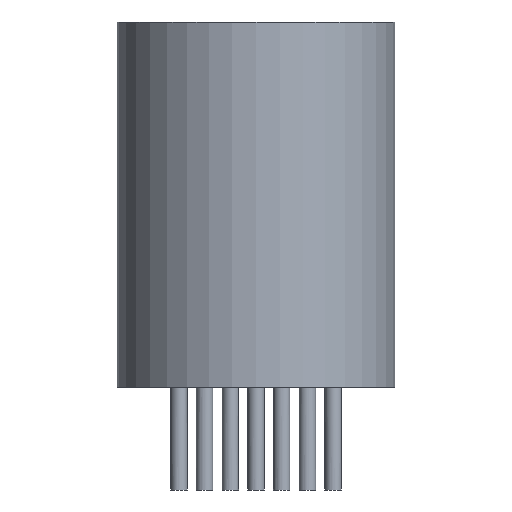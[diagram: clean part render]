
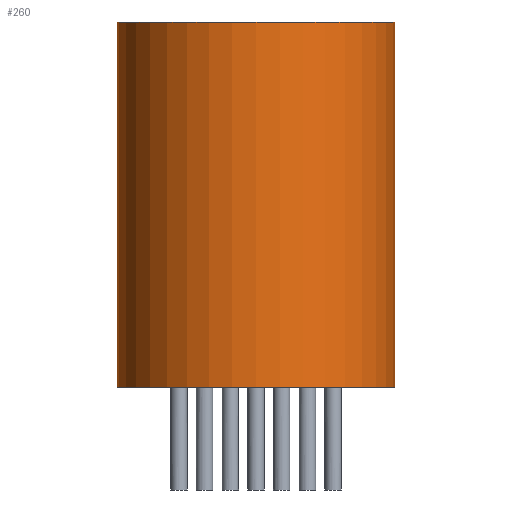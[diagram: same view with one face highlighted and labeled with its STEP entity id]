
A CAD part, front view. The second image highlights one B-rep face of the part: STEP entity #260.
In plain terms, the highlighted cylindrical face has radius 3.429 mm (diameter 6.858 mm), a partial arc.
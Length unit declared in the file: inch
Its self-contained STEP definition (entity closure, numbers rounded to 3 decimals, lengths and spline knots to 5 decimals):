
#212 = ORIENTED_EDGE ( 'NONE', *, *, #256, .F. ) ;
#218 = ORIENTED_EDGE ( 'NONE', *, *, #5225, .T. ) ;
#223 = EDGE_LOOP ( 'NONE', ( #265, #212, #218, #250 ) ) ;
#250 = ORIENTED_EDGE ( 'NONE', *, *, #263, .T. ) ;
#256 = EDGE_CURVE ( 'NONE', #5234, #5233, #7371, .T. ) ;
#260 = ADVANCED_FACE ( 'NONE', ( #7359 ), #7357, .T. ) ;
#263 = EDGE_CURVE ( 'NONE', #5252, #5272, #7354, .T. ) ;
#265 = ORIENTED_EDGE ( 'NONE', *, *, #5224, .F. ) ;
#5224 = EDGE_CURVE ( 'NONE', #5233, #5272, #9263, .T. ) ;
#5225 = EDGE_CURVE ( 'NONE', #5234, #5252, #9259, .T. ) ;
#5233 = VERTEX_POINT ( 'NONE', #9304 ) ;
#5234 = VERTEX_POINT ( 'NONE', #9303 ) ;
#5252 = VERTEX_POINT ( 'NONE', #9310 ) ;
#5272 = VERTEX_POINT ( 'NONE', #9358 ) ;
#7345 = DIRECTION ( 'NONE',  ( -1., 0., 0. ) ) ;
#7346 = AXIS2_PLACEMENT_3D ( 'NONE', #7412, #7411, #7410 ) ;
#7353 = AXIS2_PLACEMENT_3D ( 'NONE', #7360, #7365, #7345 ) ;
#7354 = CIRCLE ( 'NONE', #7346, 0.135 ) ;
#7355 = DIRECTION ( 'NONE',  ( 1., 0., 0. ) ) ;
#7356 = DIRECTION ( 'NONE',  ( 0., 0., 1. ) ) ;
#7357 = CYLINDRICAL_SURFACE ( 'NONE', #7353, 0.135 ) ;
#7359 = FACE_OUTER_BOUND ( 'NONE', #223, .T. ) ;
#7360 = CARTESIAN_POINT ( 'NONE',  ( 0., 0., 0. ) ) ;
#7365 = DIRECTION ( 'NONE',  ( 0., 0., -1. ) ) ;
#7366 = CARTESIAN_POINT ( 'NONE',  ( 0., 0., 0. ) ) ;
#7371 = CIRCLE ( 'NONE', #7374, 0.135 ) ;
#7374 = AXIS2_PLACEMENT_3D ( 'NONE', #7366, #7356, #7355 ) ;
#7410 = DIRECTION ( 'NONE',  ( 1., 0., 0. ) ) ;
#7411 = DIRECTION ( 'NONE',  ( 0., 0., 1. ) ) ;
#7412 = CARTESIAN_POINT ( 'NONE',  ( 0., 0., -0.355 ) ) ;
#9259 = LINE ( 'NONE', #9322, #9321 ) ;
#9260 = DIRECTION ( 'NONE',  ( 0., 0., -1. ) ) ;
#9261 = VECTOR ( 'NONE', #9260, 39.37008 ) ;
#9262 = CARTESIAN_POINT ( 'NONE',  ( 0.135, 0., 0. ) ) ;
#9263 = LINE ( 'NONE', #9262, #9261 ) ;
#9303 = CARTESIAN_POINT ( 'NONE',  ( -0.135, 0., 0. ) ) ;
#9304 = CARTESIAN_POINT ( 'NONE',  ( 0.135, 0., 0. ) ) ;
#9310 = CARTESIAN_POINT ( 'NONE',  ( -0.135, 0., -0.355 ) ) ;
#9320 = DIRECTION ( 'NONE',  ( 0., 0., -1. ) ) ;
#9321 = VECTOR ( 'NONE', #9320, 39.37008 ) ;
#9322 = CARTESIAN_POINT ( 'NONE',  ( -0.135, 0., 0. ) ) ;
#9358 = CARTESIAN_POINT ( 'NONE',  ( 0.135, 0., -0.355 ) ) ;
